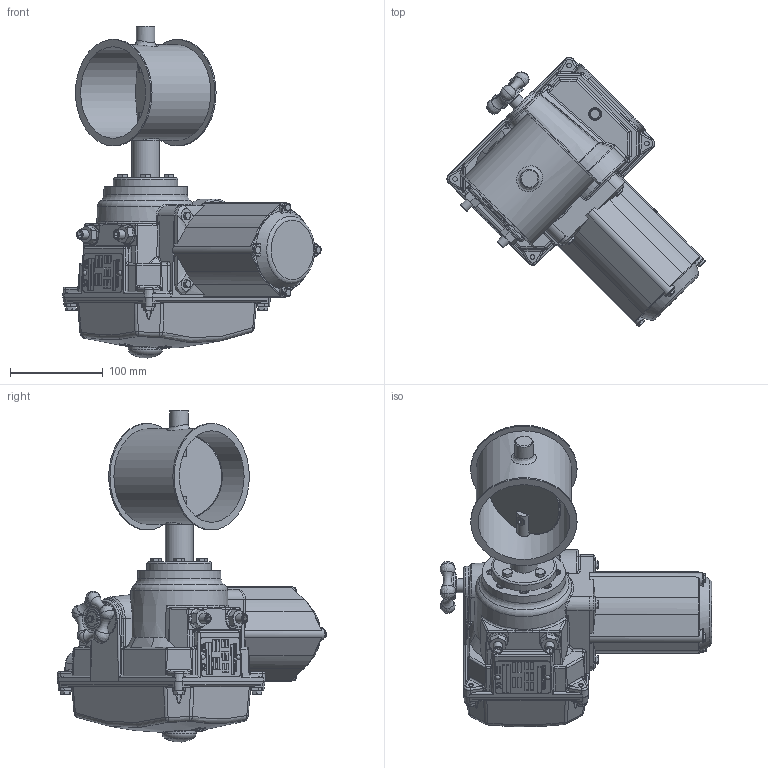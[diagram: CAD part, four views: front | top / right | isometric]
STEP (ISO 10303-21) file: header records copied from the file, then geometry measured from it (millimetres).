
FILE_DESCRIPTION((''),'2;1');
FILE_NAME('U:\Wolfgang\Marcel-3D\fertig\Kapitel 8\1021217.stp','2011-05-03T15:05:22',('TK1'),(''),'Autodesk Inventor 2010','Autodesk Inventor 2010','');
FILE_SCHEMA(('AUTOMOTIVE_DESIGN { 1 0 10303 214 1 1 1 1 }'));
Length unit declared in the file: millimetre
Products named in the file (9): 1021217; Bolzen D15; Scheibe100; DIN 6912 M6 x 16; 1021211-1; D15 Antrieb Le-4; BuchseD15 70-50; DIN EN ISO 4018 M6x25; LEB45cc
Assembly tree (13 placements, depth 3):
  1021217
    Bolzen D15  x2
    Scheibe100
    DIN 6912 M6 x 16  x2
    1021211-1
    D15 Antrieb Le-4
      BuchseD15 70-50
      DIN EN ISO 4018 M6x25  x4
      LEB45cc
Bounding box: 279.16 x 291.15 x 358.82 mm (x, y, z)
Volume: 4188602.4 mm3; surface area: 350975 mm2
Topology: 12 solids, 12 shells, 1480 faces, 3733 edges, 2344 vertices
Faces by surface type: plane 752, cylinder 283, bspline 237, torus 82, cone 81, sphere 45
Full cylindrical faces by diameter (mm): 3 x2, 5 x4, 5.1 x8, 6 x14, 6.9 x8, 10 x6, 14 x2, 15 x3, 15.5 x1, 16 x1, 17 x1, 18.6 x2, 20 x1, 24 x1, 30 x2, 35 x1, 42 x1, 70 x1, 95 x1, 99 x1, 103 x1, 115 x2
Entity records: 51160 total; most frequent: CARTESIAN_POINT 19082, ORIENTED_EDGE 6614, DIRECTION 5790, EDGE_CURVE 3307, VERTEX_POINT 2176, AXIS2_PLACEMENT_3D 2034, VECTOR 1722, LINE 1722
